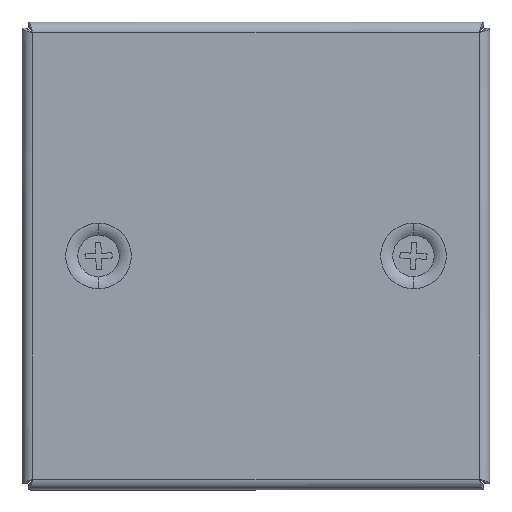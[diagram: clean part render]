
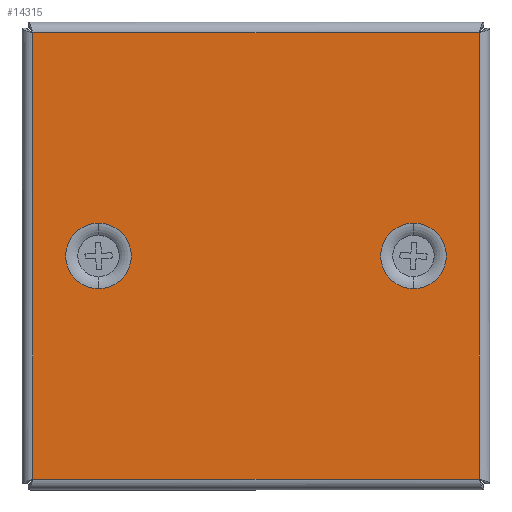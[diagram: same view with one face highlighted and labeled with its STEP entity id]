
A CAD part, top view. The second image highlights one B-rep face of the part: STEP entity #14315.
In plain terms, the highlighted planar face has unit normal (0, 0, 1).
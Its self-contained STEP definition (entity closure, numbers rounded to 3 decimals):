
#243 = CIRCLE ( 'NONE', #5594, 7.301 ) ;
#1074 = VERTEX_POINT ( 'NONE', #3381 ) ;
#1110 = ORIENTED_EDGE ( 'NONE', *, *, #4230, .T. ) ;
#1318 = LINE ( 'NONE', #12659, #7075 ) ;
#1499 = EDGE_CURVE ( 'NONE', #10718, #11480, #12830, .T. ) ;
#1767 = VECTOR ( 'NONE', #6740, 1000. ) ;
#2010 = AXIS2_PLACEMENT_3D ( 'NONE', #6533, #2137, #6428 ) ;
#2137 = DIRECTION ( 'NONE',  ( 0., 0., 1. ) ) ;
#2979 = VERTEX_POINT ( 'NONE', #7357 ) ;
#3086 = CARTESIAN_POINT ( 'NONE',  ( -35., 7.301, 0. ) ) ;
#3381 = CARTESIAN_POINT ( 'NONE',  ( -49.6, -49.6, 0. ) ) ;
#3449 = AXIS2_PLACEMENT_3D ( 'NONE', #7924, #14776, #13669 ) ;
#3919 = DIRECTION ( 'NONE',  ( 0., -1., 0. ) ) ;
#3977 = CARTESIAN_POINT ( 'NONE',  ( -35., 0., 0. ) ) ;
#4021 = DIRECTION ( 'NONE',  ( 0., 1., 0. ) ) ;
#4212 = DIRECTION ( 'NONE',  ( 1., 0., 0. ) ) ;
#4230 = EDGE_CURVE ( 'NONE', #11480, #1074, #5458, .T. ) ;
#4516 = CARTESIAN_POINT ( 'NONE',  ( -50.659, -49.6, 0. ) ) ;
#4590 = EDGE_CURVE ( 'NONE', #17354, #10718, #1318, .T. ) ;
#4979 = EDGE_LOOP ( 'NONE', ( #17211, #15358 ) ) ;
#4999 = VERTEX_POINT ( 'NONE', #8577 ) ;
#5240 = EDGE_CURVE ( 'NONE', #6688, #2979, #243, .T. ) ;
#5458 = LINE ( 'NONE', #13269, #10043 ) ;
#5512 = DIRECTION ( 'NONE',  ( 0., 0., 1. ) ) ;
#5594 = AXIS2_PLACEMENT_3D ( 'NONE', #3977, #10966, #9581 ) ;
#5767 = ORIENTED_EDGE ( 'NONE', *, *, #6871, .F. ) ;
#6006 = LINE ( 'NONE', #4516, #18232 ) ;
#6428 = DIRECTION ( 'NONE',  ( 0., -1., 0. ) ) ;
#6533 = CARTESIAN_POINT ( 'NONE',  ( 35., 0., 0. ) ) ;
#6688 = VERTEX_POINT ( 'NONE', #3086 ) ;
#6740 = DIRECTION ( 'NONE',  ( -1., 0., 0. ) ) ;
#6871 = EDGE_CURVE ( 'NONE', #4999, #8877, #9156, .T. ) ;
#6914 = CARTESIAN_POINT ( 'NONE',  ( -35., 0., 0. ) ) ;
#7075 = VECTOR ( 'NONE', #4021, 1000. ) ;
#7155 = EDGE_CURVE ( 'NONE', #2979, #6688, #11814, .T. ) ;
#7357 = CARTESIAN_POINT ( 'NONE',  ( -35., -7.301, 0. ) ) ;
#7496 = CARTESIAN_POINT ( 'NONE',  ( 35., 7.301, 0. ) ) ;
#7924 = CARTESIAN_POINT ( 'NONE',  ( 35., 0., 0. ) ) ;
#8237 = CARTESIAN_POINT ( 'NONE',  ( 0., 0., 0. ) ) ;
#8507 = FACE_BOUND ( 'NONE', #10809, .T. ) ;
#8577 = CARTESIAN_POINT ( 'NONE',  ( 35., -7.301, 0. ) ) ;
#8630 = DIRECTION ( 'NONE',  ( 1., 0., 0. ) ) ;
#8796 = ORIENTED_EDGE ( 'NONE', *, *, #1499, .T. ) ;
#8877 = VERTEX_POINT ( 'NONE', #7496 ) ;
#9000 = CARTESIAN_POINT ( 'NONE',  ( 49.6, 49.6, 0. ) ) ;
#9156 = CIRCLE ( 'NONE', #2010, 7.301 ) ;
#9450 = CIRCLE ( 'NONE', #3449, 7.301 ) ;
#9581 = DIRECTION ( 'NONE',  ( 0., -1., 0. ) ) ;
#10043 = VECTOR ( 'NONE', #11125, 1000. ) ;
#10048 = ORIENTED_EDGE ( 'NONE', *, *, #17693, .T. ) ;
#10718 = VERTEX_POINT ( 'NONE', #9000 ) ;
#10809 = EDGE_LOOP ( 'NONE', ( #5767, #16417 ) ) ;
#10894 = AXIS2_PLACEMENT_3D ( 'NONE', #8237, #18169, #4212 ) ;
#10966 = DIRECTION ( 'NONE',  ( 0., 0., 1. ) ) ;
#11125 = DIRECTION ( 'NONE',  ( 0., -1., 0. ) ) ;
#11292 = FACE_BOUND ( 'NONE', #4979, .T. ) ;
#11480 = VERTEX_POINT ( 'NONE', #18068 ) ;
#11814 = CIRCLE ( 'NONE', #13296, 7.301 ) ;
#12659 = CARTESIAN_POINT ( 'NONE',  ( 49.6, -50.659, 0. ) ) ;
#12830 = LINE ( 'NONE', #18079, #1767 ) ;
#13254 = ORIENTED_EDGE ( 'NONE', *, *, #4590, .T. ) ;
#13269 = CARTESIAN_POINT ( 'NONE',  ( -49.6, 50.659, 0. ) ) ;
#13296 = AXIS2_PLACEMENT_3D ( 'NONE', #6914, #5512, #3919 ) ;
#13669 = DIRECTION ( 'NONE',  ( 0., -1., 0. ) ) ;
#13875 = EDGE_CURVE ( 'NONE', #8877, #4999, #9450, .T. ) ;
#14295 = CARTESIAN_POINT ( 'NONE',  ( 49.6, -49.6, 0. ) ) ;
#14315 = ADVANCED_FACE ( 'NONE', ( #8507, #11292, #16864 ), #17047, .T. ) ;
#14618 = EDGE_LOOP ( 'NONE', ( #1110, #10048, #13254, #8796 ) ) ;
#14776 = DIRECTION ( 'NONE',  ( 0., 0., 1. ) ) ;
#15358 = ORIENTED_EDGE ( 'NONE', *, *, #5240, .F. ) ;
#16417 = ORIENTED_EDGE ( 'NONE', *, *, #13875, .F. ) ;
#16864 = FACE_OUTER_BOUND ( 'NONE', #14618, .T. ) ;
#17047 = PLANE ( 'NONE',  #10894 ) ;
#17211 = ORIENTED_EDGE ( 'NONE', *, *, #7155, .F. ) ;
#17354 = VERTEX_POINT ( 'NONE', #14295 ) ;
#17693 = EDGE_CURVE ( 'NONE', #1074, #17354, #6006, .T. ) ;
#18068 = CARTESIAN_POINT ( 'NONE',  ( -49.6, 49.6, 0. ) ) ;
#18079 = CARTESIAN_POINT ( 'NONE',  ( 50.659, 49.6, 0. ) ) ;
#18169 = DIRECTION ( 'NONE',  ( 0., 0., 1. ) ) ;
#18232 = VECTOR ( 'NONE', #8630, 1000. ) ;
